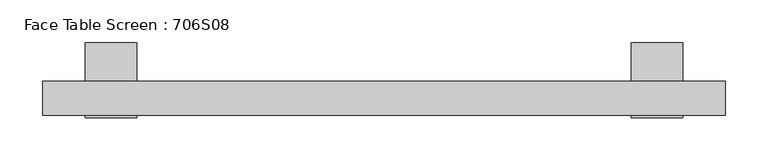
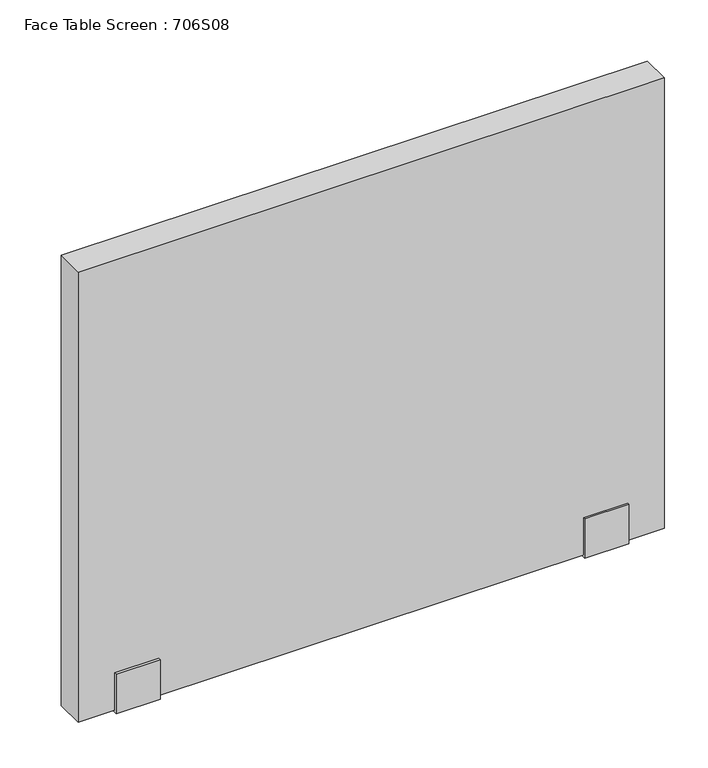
"""IFC4 building model written with IfcOpenShell, lengths in millimetres: furniture geometry, Face Table Screen : 706S08."""

import ifcopenshell
import ifcopenshell.guid

model = None  # the IFC model being written
_history = None  # IfcOwnerHistory: only IFC2X3 demands one
_inside = {}  # id of a spatial element -> (the spatial element, [elements in it])
_under = {}  # id of a project, library or spatial element -> (it, [spatial elements below it])
_declared = {}  # id of a project -> (the project, [libraries it declares])
_typed = {}  # id of a type object -> (the type object, [elements of that type])
_made_of = {}  # id of a material, layer set ... -> (it, [elements and type objects made of it])


def new_model(schema):
    """Start an empty IFC model of exactly this schema.

    Asked for "IFC4X3", IfcOpenShell would pick the latest addendum, in which some entities
    have other attributes; the version numbers below select the first issue.
    IFC2X3 requires an IfcOwnerHistory on every rooted entity: one is made here for all.
    """
    global model, _history
    if schema == "IFC4X3":
        model = ifcopenshell.file(schema_version=(4, 3, 0, 0))
    else:
        model = ifcopenshell.file(schema=schema)
    _inside.clear()
    _under.clear()
    _declared.clear()
    _typed.clear()
    _made_of.clear()
    _history = None
    if model.schema == "IFC2X3":
        org = make("IfcOrganization", Name="unknown")
        user = make(
            "IfcPersonAndOrganization",
            ThePerson=make("IfcPerson", FamilyName="unknown"),
            TheOrganization=org,
        )
        app = make(
            "IfcApplication",
            ApplicationDeveloper=org,
            Version="unknown",
            ApplicationFullName="unknown",
            ApplicationIdentifier="unknown",
        )
        _history = make(
            "IfcOwnerHistory",
            OwningUser=user,
            OwningApplication=app,
            ChangeAction="ADDED",
            CreationDate=0,
        )
    return model


def make(cls, **values):
    """One entity of the class cls with the attributes given. An attribute that is None is left unset."""
    return model.create_entity(
        cls, **{name: value for name, value in values.items() if value is not None}
    )


def rooted(cls, **values):
    """An entity with a GlobalId (a new one), such as an element, a storey or a relation."""
    return make(cls, GlobalId=ifcopenshell.guid.new(), OwnerHistory=_history, **values)


def si_unit(unit_type, name, prefix=None):
    """IfcSIUnit, for example si_unit("LENGTHUNIT", "METRE", prefix="MILLI")."""
    return make("IfcSIUnit", UnitType=unit_type, Prefix=prefix, Name=name)


def assignment(units):
    """IfcUnitAssignment: the units of a project."""
    return None if units is None else make("IfcUnitAssignment", Units=units)


def point(xyz):
    """IfcCartesianPoint."""
    return None if xyz is None else make("IfcCartesianPoint", Coordinates=xyz)


def direction(xyz):
    """IfcDirection."""
    return None if xyz is None else make("IfcDirection", DirectionRatios=xyz)


def frame(location, z_axis=None, x_axis=None):
    """IfcAxis2Placement3D, a coordinate frame: its origin and axes. An axis left out is left unset."""
    return make(
        "IfcAxis2Placement3D",
        Location=point(location),
        Axis=direction(z_axis),
        RefDirection=direction(x_axis),
    )


def origin():
    """The frame at (0, 0, 0) with its axes left unset."""
    return frame((0.0, 0.0, 0.0))


def place(relative_to, where):
    """IfcLocalPlacement: puts the frame where relative to a parent placement (None: the world)."""
    return make(
        "IfcLocalPlacement", PlacementRelTo=relative_to, RelativePlacement=where
    )


def context(
    kind, dimensions, precision=None, world=None, true_north=None, identifier=None
):
    """IfcGeometricRepresentationContext, for example the 3D "Model" context."""
    return make(
        "IfcGeometricRepresentationContext",
        ContextIdentifier=identifier,
        ContextType=kind,
        CoordinateSpaceDimension=dimensions,
        Precision=precision,
        WorldCoordinateSystem=world,
        TrueNorth=true_north,
    )


def project(units=None, contexts=None):
    """IfcProject with its units and contexts."""
    return rooted(
        "IfcProject",
        Name="project",
        RepresentationContexts=contexts,
        UnitsInContext=assignment(units),
    )


def spatial(cls, under=None, at=None, **own):
    """A site, building, storey or space (cls), placed at a placement, below another one or the project."""
    s = rooted(cls, ObjectPlacement=at, **own)
    if under is not None:
        _under.setdefault(under.id(), (under, []))[1].append(s)
    return s


def polyline(points):
    """IfcPolyline through the points."""
    return make("IfcPolyline", Points=[point(p) for p in points])


def outline(outer, holes=None, kind="AREA"):
    """IfcArbitraryClosedProfileDef: a profile drawn as a closed curve; with holes, ...WithVoids."""
    if holes is None:
        return make("IfcArbitraryClosedProfileDef", ProfileType=kind, OuterCurve=outer)
    return make(
        "IfcArbitraryProfileDefWithVoids",
        ProfileType=kind,
        OuterCurve=outer,
        InnerCurves=holes,
    )


def extrude(swept, where, along, depth):
    """IfcExtrudedAreaSolid: the profile swept, set in the frame where, extruded along a direction by depth."""
    return make(
        "IfcExtrudedAreaSolid",
        SweptArea=swept,
        Position=where,
        ExtrudedDirection=direction(along),
        Depth=depth,
    )


def shape(context_of_items, identifier, shape_type, items):
    """IfcShapeRepresentation: the items that make up one representation, for example the "Body"."""
    return make(
        "IfcShapeRepresentation",
        ContextOfItems=context_of_items,
        RepresentationIdentifier=identifier,
        RepresentationType=shape_type,
        Items=items,
    )


def source(mapping_origin, context_of_items, identifier, shape_type, items):
    """IfcRepresentationMap: a shape defined once, which mapped items show again and again."""
    return make(
        "IfcRepresentationMap",
        MappingOrigin=mapping_origin,
        MappedRepresentation=shape(context_of_items, identifier, shape_type, items),
    )


def transform(
    local_origin,
    x_axis=None,
    y_axis=None,
    z_axis=None,
    scale=None,
    scale2=None,
    scale3=None,
    uniform=True,
):
    """IfcCartesianTransformationOperator3D, or its non-uniform kind. x_axis, y_axis, z_axis: its Axis1, 2, 3."""
    if uniform:
        return make(
            "IfcCartesianTransformationOperator3D",
            Axis1=direction(x_axis),
            Axis2=direction(y_axis),
            LocalOrigin=point(local_origin),
            Scale=scale,
            Axis3=direction(z_axis),
        )
    return make(
        "IfcCartesianTransformationOperator3DnonUniform",
        Axis1=direction(x_axis),
        Axis2=direction(y_axis),
        LocalOrigin=point(local_origin),
        Scale=scale,
        Axis3=direction(z_axis),
        Scale2=scale2,
        Scale3=scale3,
    )


def mapped(mapping_source, mapping_target):
    """IfcMappedItem: shows the shape of a source again, moved by a transform."""
    return make(
        "IfcMappedItem", MappingSource=mapping_source, MappingTarget=mapping_target
    )


def made_of(thing, what):
    """Note that an element or type object is made of a material, layer set ...; save() writes the relation."""
    if what is not None:
        _made_of.setdefault(what.id(), (what, []))[1].append(thing)
    return thing


def element(
    cls,
    number,
    at=None,
    inside=None,
    cuts=None,
    type_object=None,
    material=None,
    context=None,
    identifier="Body",
    shape_type=None,
    held_by="IfcProductDefinitionShape",
    body=None,
    shapes=None,
    **own,
):
    """One element of the class cls, such as IfcWall. Its Tag is "e" and its number.

    at: its placement. inside: the storey or other place that contains it. cuts: it is an
    opening in that element (IfcRelVoidsElement). A single representation is given by context,
    identifier, shape_type and body (its items); several are given by shapes. held_by: the class
    of the entity that holds the representations. save() writes the other relations.
    """
    e = rooted(cls, Tag="e%d" % number, ObjectPlacement=at, **own)
    if body is not None:
        shapes = [shape(context, identifier, shape_type, body)]
    if shapes is not None:
        e.Representation = make(held_by, Representations=shapes)
    if inside is not None:
        _inside.setdefault(inside.id(), (inside, []))[1].append(e)
    if cuts is not None:
        rooted(
            "IfcRelVoidsElement", RelatingBuildingElement=cuts, RelatedOpeningElement=e
        )
    if type_object is not None:
        _typed.setdefault(type_object.id(), (type_object, []))[1].append(e)
    return made_of(e, material)


def aggregate(whole, parts):
    """IfcRelAggregates: a whole, such as a stair, and the parts it consists of."""
    return rooted("IfcRelAggregates", RelatingObject=whole, RelatedObjects=parts)


def save(model, path):
    """Write the relations noted so far, then the file.

    IfcRelAggregates (storeys below a building ...), IfcRelContainedInSpatialStructure (elements
    in a storey), IfcRelDefinesByType, IfcRelAssociatesMaterial and IfcRelDeclares: one each for
    every whole, place, type object, material and project.
    """
    for whole, parts in _under.values():
        aggregate(whole, parts)
    for where, things in _inside.values():
        rooted(
            "IfcRelContainedInSpatialStructure",
            RelatedElements=things,
            RelatingStructure=where,
        )
    for kind, things in _typed.values():
        rooted("IfcRelDefinesByType", RelatedObjects=things, RelatingType=kind)
    for what, things in _made_of.values():
        rooted("IfcRelAssociatesMaterial", RelatedObjects=things, RelatingMaterial=what)
    for by, libraries in _declared.values():
        rooted("IfcRelDeclares", RelatingContext=by, RelatedDefinitions=libraries)
    model.write(path)


def face_table_screen_706s08_3afd7701(model_context):
    return source(origin(), model_context, "Body", "SweptSolid", [
        extrude(outline(polyline([(-22.9999947, -256.0), (-22.9999997, -199.0433898), (-20.0, -199.0433898), (-20.0, -253.0), (20.0, -253.0), (20.0, -22.0), (65.0, -22.0), (65.0, -25.0433898), (23.0000062, -25.0433898), (22.9999947, -256.0), (-22.9999947, -256.0)])), frame((290.0, 0.0, 0.0), z_axis=(1.0, 0.0, 0.0), x_axis=(0.0, 1.0, 0.0)), (0.0, 0.0, 1.0), 60.0),
        extrude(outline(polyline([(-22.9999947, -256.0), (-22.9999997, -199.0433898), (-20.0, -199.0433898), (-20.0, -253.0), (20.0, -253.0), (20.0, -22.0), (65.0, -22.0), (65.0, -25.0433898), (23.0000062, -25.0433898), (22.9999947, -256.0), (-22.9999947, -256.0)])), frame((-350.0, 0.0, 0.0), z_axis=(1.0, 0.0, 0.0), x_axis=(0.0, 1.0, 0.0)), (0.0, 0.0, 1.0), 60.0),
        extrude(outline(polyline([(400.0, -20.0), (-400.0, -20.0), (-400.0, 20.0), (400.0, 20.0), (400.0, -20.0)])), frame((0.0, 0.0, -253.0), z_axis=(0.0, 0.0, 1.0), x_axis=(1.0, 0.0, 0.0)), (0.0, 0.0, 1.0), 650.0),
    ])


if __name__ == "__main__":
    model = new_model("IFC4")
    model_context = context("Model", 3, world=origin())
    ifc_project = project(units=[si_unit("LENGTHUNIT", "METRE", prefix="MILLI")], contexts=[model_context])
    site = spatial("IfcSite", under=ifc_project)
    building = spatial("IfcBuilding", under=site)
    placement = place(None, origin())
    face_table_screen_706s08_shape = face_table_screen_706s08_3afd7701(model_context)
    element("IfcFurniture", 1, ObjectType="Face Table Screen : 706S08", at=placement, inside=building, context=model_context, shape_type="MappedRepresentation", body=[
        mapped(face_table_screen_706s08_shape, transform((0.0, 0.0, 0.0), x_axis=(1.0, 0.0, 0.0), y_axis=(0.0, 1.0, 0.0), z_axis=(0.0, 0.0, 1.0))),
    ])
    save(model, "model.ifc")
